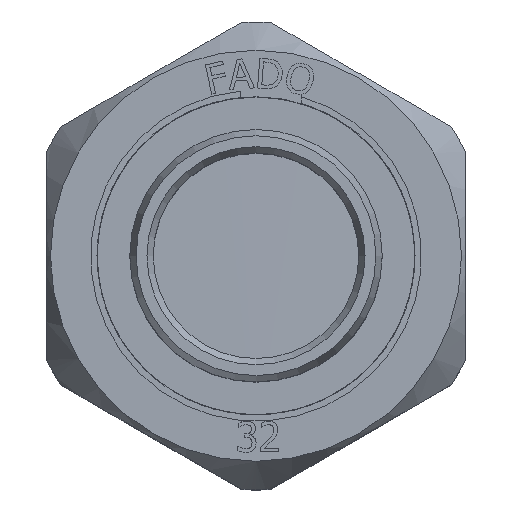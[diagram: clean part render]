
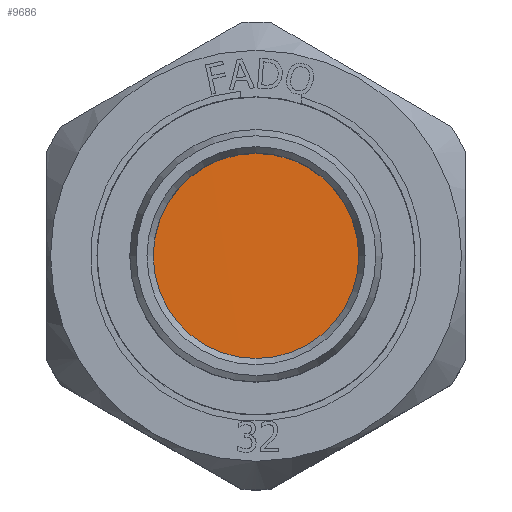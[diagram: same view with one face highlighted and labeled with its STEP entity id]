
A CAD part, top view. The second image highlights one B-rep face of the part: STEP entity #9686.
In plain terms, the highlighted cylindrical face has radius 19.5 mm (diameter 39 mm), a full revolution.
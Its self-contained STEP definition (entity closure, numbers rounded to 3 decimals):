
#340=B_SPLINE_CURVE_WITH_KNOTS('',3,(#13123,#13124,#13125,#13126,#13127,
#13128,#13129,#13130,#13131,#13132,#13133,#13134,#13135,#13136,#13137,#13138,
#13139),.UNSPECIFIED.,.F.,.F.,(4,1,1,1,1,1,1,1,1,1,1,1,1,1,4),(56.549,
56.857,57.353,57.848,58.344,58.839,
59.334,59.83,60.325,60.821,61.316,
61.812,62.307,62.803,62.832),
 .UNSPECIFIED.);
#1072=CYLINDRICAL_SURFACE('',#10373,19.5);
#1330=LINE('',#12785,#1911);
#1338=LINE('',#13122,#1919);
#1911=VECTOR('',#11018,19.5);
#1919=VECTOR('',#11044,19.5);
#2511=FACE_OUTER_BOUND('',#3076,.T.);
#3076=EDGE_LOOP('',(#6692,#6693,#6694));
#3991=VERTEX_POINT('',#12783);
#3992=VERTEX_POINT('',#12784);
#4004=VERTEX_POINT('',#13121);
#5053=EDGE_CURVE('',#3991,#3992,#1330,.T.);
#5073=EDGE_CURVE('',#4004,#3992,#1338,.T.);
#5074=EDGE_CURVE('',#4004,#3991,#340,.T.);
#6692=ORIENTED_EDGE('',*,*,#5053,.T.);
#6693=ORIENTED_EDGE('',*,*,#5073,.F.);
#6694=ORIENTED_EDGE('',*,*,#5074,.T.);
#9686=ADVANCED_FACE('',(#2511),#1072,.T.);
#10373=AXIS2_PLACEMENT_3D('',#13120,#11042,#11043);
#11018=DIRECTION('',(0.,0.,1.));
#11042=DIRECTION('center_axis',(0.,0.,1.));
#11043=DIRECTION('ref_axis',(0.,1.,0.));
#11044=DIRECTION('',(0.,0.,-1.));
#12783=CARTESIAN_POINT('',(0.,-19.5,9.246));
#12784=CARTESIAN_POINT('',(0.,-19.5,10.234));
#12785=CARTESIAN_POINT('',(0.,-19.5,12.));
#13120=CARTESIAN_POINT('Origin',(0.,0.,12.));
#13121=CARTESIAN_POINT('',(0.,-19.5,10.247));
#13122=CARTESIAN_POINT('',(0.,-19.5,12.));
#13123=CARTESIAN_POINT('Ctrl Pts',(0.,-19.499,
10.247));
#13124=CARTESIAN_POINT('Ctrl Pts',(-2.005,-19.498,
10.23));
#13125=CARTESIAN_POINT('Ctrl Pts',(-7.233,-18.695,
10.188));
#13126=CARTESIAN_POINT('Ctrl Pts',(-14.63,-14.097,10.119));
#13127=CARTESIAN_POINT('Ctrl Pts',(-19.572,-5.446,
10.04));
#13128=CARTESIAN_POINT('Ctrl Pts',(-19.808,4.514,9.961));
#13129=CARTESIAN_POINT('Ctrl Pts',(-15.28,13.389,9.882));
#13130=CARTESIAN_POINT('Ctrl Pts',(-7.077,19.043,9.803));
#13131=CARTESIAN_POINT('Ctrl Pts',(2.827,20.118,9.724));
#13132=CARTESIAN_POINT('Ctrl Pts',(12.052,16.355,9.645));
#13133=CARTESIAN_POINT('Ctrl Pts',(18.379,8.658,9.566));
#13134=CARTESIAN_POINT('Ctrl Pts',(20.285,-1.121,9.487));
#13135=CARTESIAN_POINT('Ctrl Pts',(17.313,-10.63,9.408));
#13136=CARTESIAN_POINT('Ctrl Pts',(10.177,-17.583,9.329));
#13137=CARTESIAN_POINT('Ctrl Pts',(3.6,-19.453,9.275));
#13138=CARTESIAN_POINT('Ctrl Pts',(0.19,-19.502,
9.247));
#13139=CARTESIAN_POINT('Ctrl Pts',(0.,-19.501,
9.246));
